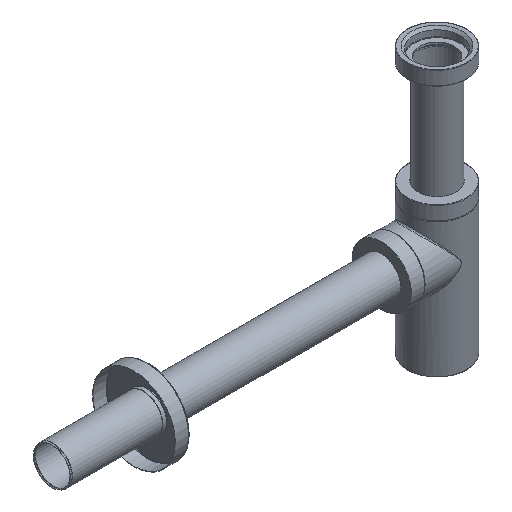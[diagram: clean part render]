
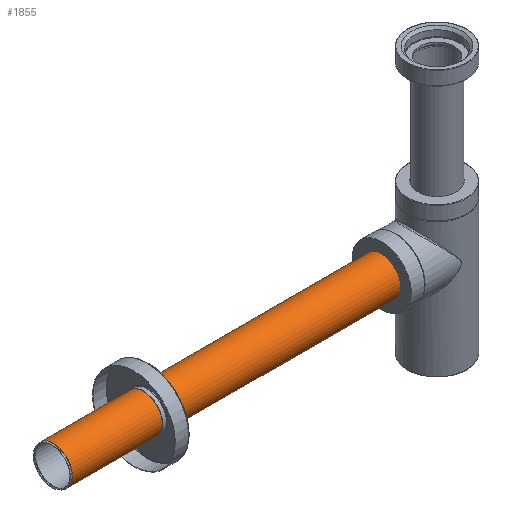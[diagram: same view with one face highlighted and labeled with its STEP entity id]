
A CAD part, isometric view. The second image highlights one B-rep face of the part: STEP entity #1855.
In plain terms, the highlighted cylindrical face has radius 16 mm (diameter 32 mm), a full revolution.
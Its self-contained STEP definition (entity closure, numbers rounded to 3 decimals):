
#170=CYLINDRICAL_SURFACE('',#2078,16.);
#248=CIRCLE('',#2070,16.);
#252=CIRCLE('',#2077,16.);
#465=ORIENTED_EDGE('',*,*,#646,.F.);
#466=ORIENTED_EDGE('',*,*,#642,.T.);
#642=EDGE_CURVE('',#760,#760,#248,.T.);
#646=EDGE_CURVE('',#764,#764,#252,.T.);
#760=VERTEX_POINT('',#3235);
#764=VERTEX_POINT('',#3246);
#940=EDGE_LOOP('',(#465));
#941=EDGE_LOOP('',(#466));
#1166=FACE_BOUND('',#940,.T.);
#1167=FACE_BOUND('',#941,.T.);
#1855=ADVANCED_FACE('',(#1166,#1167),#170,.T.);
#2070=AXIS2_PLACEMENT_3D('',#3234,#2420,#2421);
#2077=AXIS2_PLACEMENT_3D('',#3245,#2434,#2435);
#2078=AXIS2_PLACEMENT_3D('',#3247,#2436,#2437);
#2420=DIRECTION('',(0.,0.,-1.));
#2421=DIRECTION('',(1.,0.,0.));
#2434=DIRECTION('',(0.,0.,-1.));
#2435=DIRECTION('',(1.,0.,0.));
#2436=DIRECTION('',(0.,0.,-1.));
#2437=DIRECTION('',(-1.,0.,0.));
#3234=CARTESIAN_POINT('',(0.,0.,297.));
#3235=CARTESIAN_POINT('',(16.,0.,297.));
#3245=CARTESIAN_POINT('',(0.,0.,0.));
#3246=CARTESIAN_POINT('',(16.,0.,0.));
#3247=CARTESIAN_POINT('',(0.,0.,297.));
